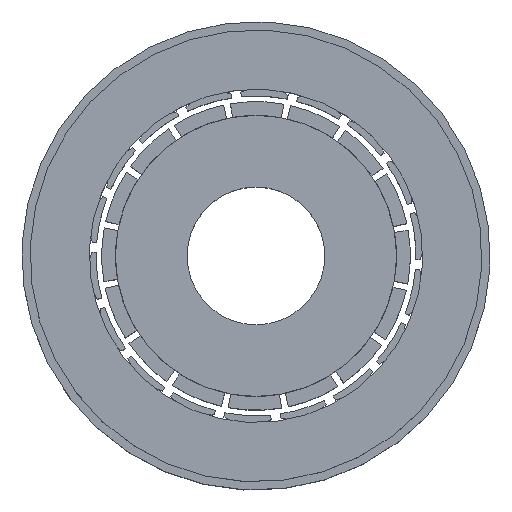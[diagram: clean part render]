
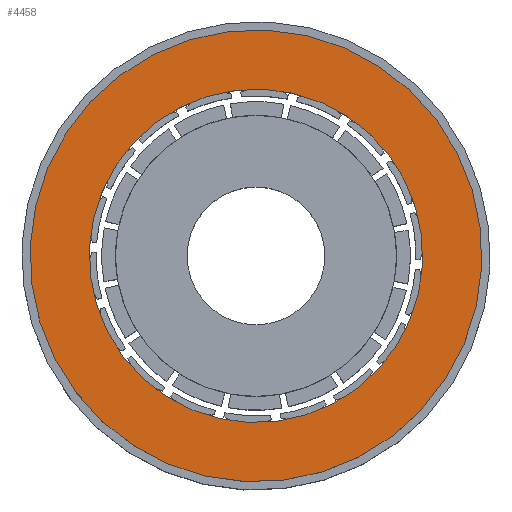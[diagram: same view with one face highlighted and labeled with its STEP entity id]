
A CAD part, top view. The second image highlights one B-rep face of the part: STEP entity #4458.
In plain terms, the highlighted planar face has unit normal (0, 0, 1).
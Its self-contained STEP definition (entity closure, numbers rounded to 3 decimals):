
#462 = ORIENTED_EDGE ( 'NONE', *, *, #6744, .T. ) ;
#703 = CARTESIAN_POINT ( 'NONE',  ( -8.615, 20.323, 73.297 ) ) ;
#953 = CARTESIAN_POINT ( 'NONE',  ( -49.56, 22.447, 73.297 ) ) ;
#1808 = PLANE ( 'NONE',  #4631 ) ;
#2021 = DIRECTION ( 'NONE',  ( 0., 0., 1. ) ) ;
#2024 = ORIENTED_EDGE ( 'NONE', *, *, #6740, .F. ) ;
#2242 = DIRECTION ( 'NONE',  ( 0.999, -0.052, 0. ) ) ;
#2247 = CIRCLE ( 'NONE', #3443, 41. ) ;
#2452 = DIRECTION ( 'NONE',  ( 0.999, -0.052, 0. ) ) ;
#2750 = CIRCLE ( 'NONE', #8868, 30.25 ) ;
#2827 = CARTESIAN_POINT ( 'NONE',  ( -8.615, 20.323, 73.297 ) ) ;
#2918 = DIRECTION ( 'NONE',  ( 0., 0., 1. ) ) ;
#3443 = AXIS2_PLACEMENT_3D ( 'NONE', #6279, #2021, #6114 ) ;
#3586 = CARTESIAN_POINT ( 'NONE',  ( 32.33, 18.2, 73.297 ) ) ;
#3875 = CIRCLE ( 'NONE', #10145, 41. ) ;
#3892 = DIRECTION ( 'NONE',  ( 0.999, -0.052, 0. ) ) ;
#4150 = FACE_OUTER_BOUND ( 'NONE', #4573, .T. ) ;
#4458 = ADVANCED_FACE ( 'NONE', ( #6480, #4150 ), #1808, .T. ) ;
#4573 = EDGE_LOOP ( 'NONE', ( #6301, #462 ) ) ;
#4631 = AXIS2_PLACEMENT_3D ( 'NONE', #9771, #9721, #2452 ) ;
#4637 = AXIS2_PLACEMENT_3D ( 'NONE', #6843, #2918, #7061 ) ;
#5063 = VERTEX_POINT ( 'NONE', #9545 ) ;
#5804 = CIRCLE ( 'NONE', #4637, 30.25 ) ;
#6114 = DIRECTION ( 'NONE',  ( 0.999, -0.052, 0. ) ) ;
#6279 = CARTESIAN_POINT ( 'NONE',  ( -8.615, 20.323, 73.297 ) ) ;
#6281 = DIRECTION ( 'NONE',  ( 0., 0., 1. ) ) ;
#6301 = ORIENTED_EDGE ( 'NONE', *, *, #9544, .T. ) ;
#6370 = EDGE_LOOP ( 'NONE', ( #2024, #6748 ) ) ;
#6480 = FACE_BOUND ( 'NONE', #6370, .T. ) ;
#6740 = EDGE_CURVE ( 'NONE', #9418, #5063, #2750, .T. ) ;
#6744 = EDGE_CURVE ( 'NONE', #7936, #9870, #2247, .T. ) ;
#6748 = ORIENTED_EDGE ( 'NONE', *, *, #7095, .F. ) ;
#6843 = CARTESIAN_POINT ( 'NONE',  ( -8.615, 20.323, 73.297 ) ) ;
#7061 = DIRECTION ( 'NONE',  ( 0.999, -0.052, 0. ) ) ;
#7095 = EDGE_CURVE ( 'NONE', #5063, #9418, #5804, .T. ) ;
#7879 = DIRECTION ( 'NONE',  ( 0., 0., 1. ) ) ;
#7936 = VERTEX_POINT ( 'NONE', #3586 ) ;
#8868 = AXIS2_PLACEMENT_3D ( 'NONE', #2827, #7879, #2242 ) ;
#9418 = VERTEX_POINT ( 'NONE', #10052 ) ;
#9544 = EDGE_CURVE ( 'NONE', #9870, #7936, #3875, .T. ) ;
#9545 = CARTESIAN_POINT ( 'NONE',  ( 21.595, 18.756, 73.297 ) ) ;
#9721 = DIRECTION ( 'NONE',  ( 0., 0., 1. ) ) ;
#9771 = CARTESIAN_POINT ( 'NONE',  ( -8.615, 20.323, 73.297 ) ) ;
#9870 = VERTEX_POINT ( 'NONE', #953 ) ;
#10052 = CARTESIAN_POINT ( 'NONE',  ( -38.824, 21.89, 73.297 ) ) ;
#10145 = AXIS2_PLACEMENT_3D ( 'NONE', #703, #6281, #3892 ) ;
